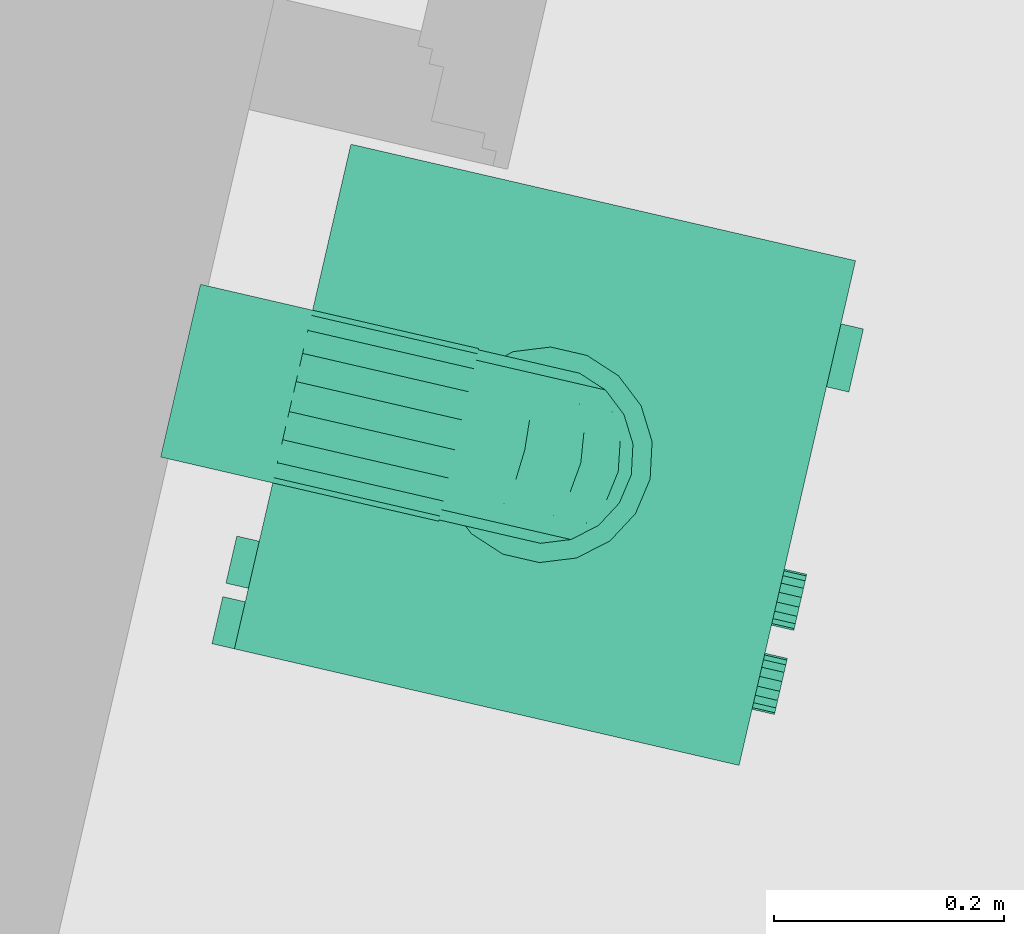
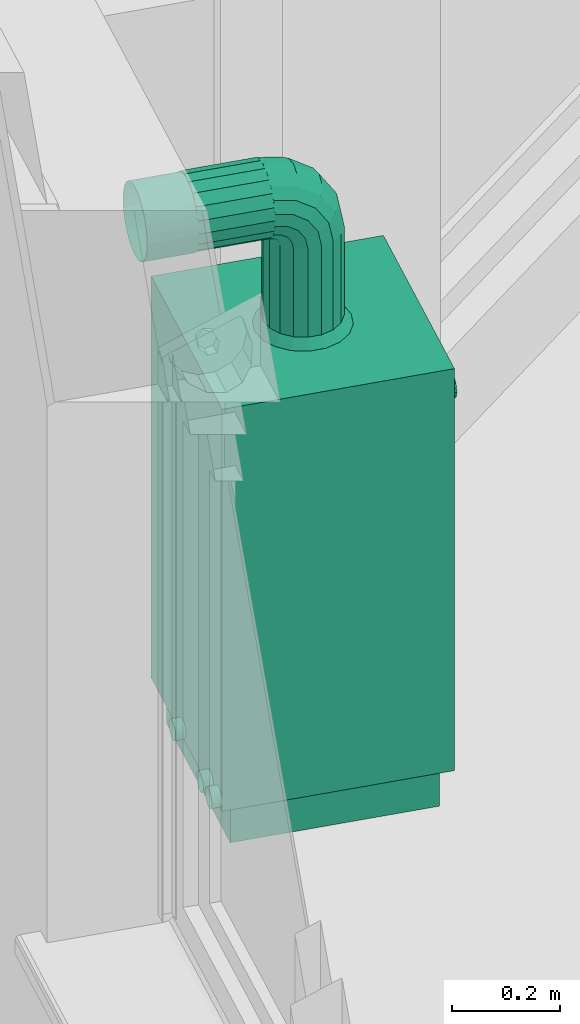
# One storey, part 81 of 91: 1 energy conversion device.
"""IFC2X3 building model written with IfcOpenShell, lengths in metres."""

from ifc_helpers import new_model, entity, si_unit, converted_unit, derived_unit, money_unit, direction, frame, origin_with_axes, place, context, subcontext, project, spatial, open_shell, faceted_brep, surface_model, source, transform, mapped, type_object, element, save


model = new_model("IFC2X3")

# Units and contexts
model_context = context("Model", 3, precision=1e-05, world=origin_with_axes(), true_north=direction((0.0, 1.0)))
body_context = subcontext(model_context, "Body", "Model", "MODEL_VIEW")
ifc_project = project(units=[si_unit("LENGTHUNIT", "METRE"), si_unit("AREAUNIT", "SQUARE_METRE"), si_unit("VOLUMEUNIT", "CUBIC_METRE"), converted_unit("PLANEANGLEUNIT", "DEGREE", entity("IfcPlaneAngleMeasure", 0.0174532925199), si_unit("PLANEANGLEUNIT", "RADIAN"), dimensions=[0, 0, 0, 0, 0, 0, 0]), si_unit("SOLIDANGLEUNIT", "STERADIAN"), money_unit("EUR"), converted_unit("TIMEUNIT", "Year", entity("IfcTimeMeasure", 31556926.0), si_unit("TIMEUNIT", "SECOND"), dimensions=[0, 0, 1, 0, 0, 0, 0]), si_unit("MASSUNIT", "GRAM", prefix="KILO"), si_unit("THERMODYNAMICTEMPERATUREUNIT", "DEGREE_CELSIUS"), si_unit("LUMINOUSINTENSITYUNIT", "LUMEN"), si_unit("ENERGYUNIT", "JOULE", prefix="MEGA"), derived_unit("THERMALCONDUCTANCEUNIT", [(si_unit("POWERUNIT", "WATT"), 1), (si_unit("LENGTHUNIT", "METRE"), -1), (si_unit("THERMODYNAMICTEMPERATUREUNIT", "KELVIN"), -1)]), derived_unit("SPECIFICHEATCAPACITYUNIT", [(si_unit("ENERGYUNIT", "JOULE"), 1), (si_unit("MASSUNIT", "GRAM", prefix="KILO"), -1), (si_unit("THERMODYNAMICTEMPERATUREUNIT", "KELVIN"), -1)]), derived_unit("MASSDENSITYUNIT", [(si_unit("MASSUNIT", "GRAM", prefix="KILO"), 1), (si_unit("VOLUMEUNIT", "CUBIC_METRE"), -1)])], contexts=[model_context])

# Site, building, storey
site_placement = place(None, origin_with_axes())
site = spatial("IfcSite", under=ifc_project, at=site_placement, Name="Site", CompositionType="ELEMENT")
building_placement = place(site_placement, origin_with_axes())
building = spatial("IfcBuilding", under=site, at=building_placement, Name="Bâtiment", CompositionType="ELEMENT")
storey_placement = place(building_placement, frame((0.0, 0.0, 5.44), z_axis=(0.0, 0.0, 1.0), x_axis=(1.0, 0.0, 0.0)))
storey = spatial("IfcBuildingStorey", under=building, at=storey_placement, Name="R+2", CompositionType="ELEMENT", Elevation=5.44)

# Energy conversion device
boiler_type = type_object("IfcBoilerType", Name="Chaudière à gaz 23", PredefinedType="WATER")
shared_shape = source(origin_with_axes(), body_context, "Body", "SurfaceModel", [
    surface_model("IfcShellBasedSurfaceModel", [(-0.2, 0.45, 0.090909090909), (-0.2, 0.47, 0.090909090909), (-0.194564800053, 0.47, 0.0916246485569), (-0.194564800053, 0.45, 0.0916246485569), (-0.205435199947, 0.45, 0.0916246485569), (-0.205435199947, 0.47, 0.0916246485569), (-0.1895, 0.47, 0.0937225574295), (-0.1895, 0.45, 0.0937225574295), (-0.2105, 0.45, 0.0937225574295), (-0.2105, 0.47, 0.0937225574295), (-0.185150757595, 0.47, 0.0970598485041), (-0.185150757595, 0.45, 0.0970598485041), (-0.214849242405, 0.45, 0.0970598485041), (-0.214849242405, 0.47, 0.0970598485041), (-0.181813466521, 0.47, 0.101409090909), (-0.181813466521, 0.45, 0.101409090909), (-0.218186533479, 0.45, 0.101409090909), (-0.218186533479, 0.47, 0.101409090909), (-0.179715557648, 0.47, 0.106473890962), (-0.179715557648, 0.45, 0.106473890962), (-0.220284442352, 0.45, 0.106473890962), (-0.220284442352, 0.47, 0.106473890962), (-0.179, 0.47, 0.111909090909), (-0.179, 0.45, 0.111909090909), (-0.221, 0.45, 0.111909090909), (-0.221, 0.47, 0.111909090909), (-0.179715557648, 0.47, 0.117344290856), (-0.179715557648, 0.45, 0.117344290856), (-0.220284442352, 0.45, 0.117344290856), (-0.220284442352, 0.47, 0.117344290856), (-0.181813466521, 0.47, 0.122409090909), (-0.181813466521, 0.45, 0.122409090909), (-0.218186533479, 0.45, 0.122409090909), (-0.218186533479, 0.47, 0.122409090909), (-0.185150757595, 0.47, 0.126758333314), (-0.185150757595, 0.45, 0.126758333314), (-0.214849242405, 0.45, 0.126758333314), (-0.214849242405, 0.47, 0.126758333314), (-0.1895, 0.47, 0.130095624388), (-0.1895, 0.45, 0.130095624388), (-0.2105, 0.45, 0.130095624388), (-0.2105, 0.47, 0.130095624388), (-0.194564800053, 0.47, 0.132193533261), (-0.194564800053, 0.45, 0.132193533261), (-0.205435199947, 0.45, 0.132193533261), (-0.205435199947, 0.47, 0.132193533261), (-0.2, 0.47, 0.132909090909), (-0.2, 0.45, 0.132909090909)], [open_shell([[[0, 1, 2, 3]], [[4, 5, 1, 0]], [[3, 2, 6, 7]], [[8, 9, 5, 4]], [[7, 6, 10, 11]], [[12, 13, 9, 8]], [[11, 10, 14, 15]], [[16, 17, 13, 12]], [[15, 14, 18, 19]], [[20, 21, 17, 16]], [[19, 18, 22, 23]], [[24, 25, 21, 20]], [[23, 22, 26, 27]], [[28, 29, 25, 24]], [[27, 26, 30, 31]], [[32, 33, 29, 28]], [[31, 30, 34, 35]], [[36, 37, 33, 32]], [[35, 34, 38, 39]], [[40, 41, 37, 36]], [[39, 38, 42, 43]], [[44, 45, 41, 40]], [[43, 42, 46, 47]], [[47, 46, 45, 44]]])]),
    surface_model("IfcShellBasedSurfaceModel", [(-0.375, 0.45, 0.090909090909), (-0.375, 0.47, 0.090909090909), (-0.369564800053, 0.47, 0.0916246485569), (-0.369564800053, 0.45, 0.0916246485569), (-0.380435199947, 0.45, 0.0916246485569), (-0.380435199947, 0.47, 0.0916246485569), (-0.3645, 0.47, 0.0937225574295), (-0.3645, 0.45, 0.0937225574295), (-0.3855, 0.45, 0.0937225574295), (-0.3855, 0.47, 0.0937225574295), (-0.360150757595, 0.47, 0.0970598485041), (-0.360150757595, 0.45, 0.0970598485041), (-0.389849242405, 0.45, 0.0970598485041), (-0.389849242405, 0.47, 0.0970598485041), (-0.356813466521, 0.47, 0.101409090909), (-0.356813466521, 0.45, 0.101409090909), (-0.393186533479, 0.45, 0.101409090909), (-0.393186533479, 0.47, 0.101409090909), (-0.354715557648, 0.47, 0.106473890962), (-0.354715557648, 0.45, 0.106473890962), (-0.395284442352, 0.45, 0.106473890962), (-0.395284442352, 0.47, 0.106473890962), (-0.354, 0.47, 0.111909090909), (-0.354, 0.45, 0.111909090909), (-0.396, 0.45, 0.111909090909), (-0.396, 0.47, 0.111909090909), (-0.354715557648, 0.47, 0.117344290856), (-0.354715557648, 0.45, 0.117344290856), (-0.395284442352, 0.45, 0.117344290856), (-0.395284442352, 0.47, 0.117344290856), (-0.356813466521, 0.47, 0.122409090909), (-0.356813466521, 0.45, 0.122409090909), (-0.393186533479, 0.45, 0.122409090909), (-0.393186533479, 0.47, 0.122409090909), (-0.360150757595, 0.47, 0.126758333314), (-0.360150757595, 0.45, 0.126758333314), (-0.389849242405, 0.45, 0.126758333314), (-0.389849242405, 0.47, 0.126758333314), (-0.3645, 0.47, 0.130095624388), (-0.3645, 0.45, 0.130095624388), (-0.3855, 0.45, 0.130095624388), (-0.3855, 0.47, 0.130095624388), (-0.369564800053, 0.47, 0.132193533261), (-0.369564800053, 0.45, 0.132193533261), (-0.380435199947, 0.45, 0.132193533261), (-0.380435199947, 0.47, 0.132193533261), (-0.375, 0.47, 0.132909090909), (-0.375, 0.45, 0.132909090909)], [open_shell([[[0, 1, 2, 3]], [[4, 5, 1, 0]], [[3, 2, 6, 7]], [[8, 9, 5, 4]], [[7, 6, 10, 11]], [[12, 13, 9, 8]], [[11, 10, 14, 15]], [[16, 17, 13, 12]], [[15, 14, 18, 19]], [[20, 21, 17, 16]], [[19, 18, 22, 23]], [[24, 25, 21, 20]], [[23, 22, 26, 27]], [[28, 29, 25, 24]], [[27, 26, 30, 31]], [[32, 33, 29, 28]], [[31, 30, 34, 35]], [[36, 37, 33, 32]], [[35, 34, 38, 39]], [[40, 41, 37, 36]], [[39, 38, 42, 43]], [[44, 45, 41, 40]], [[43, 42, 46, 47]], [[47, 46, 45, 44]]])]),
    surface_model("IfcShellBasedSurfaceModel", [(-0.429, 0.45, 0.090909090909), (-0.429, 0.47, 0.090909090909), (-0.423564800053, 0.47, 0.0916246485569), (-0.423564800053, 0.45, 0.0916246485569), (-0.434435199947, 0.45, 0.0916246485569), (-0.434435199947, 0.47, 0.0916246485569), (-0.4185, 0.47, 0.0937225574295), (-0.4185, 0.45, 0.0937225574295), (-0.4395, 0.45, 0.0937225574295), (-0.4395, 0.47, 0.0937225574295), (-0.414150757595, 0.47, 0.0970598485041), (-0.414150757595, 0.45, 0.0970598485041), (-0.443849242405, 0.45, 0.0970598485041), (-0.443849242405, 0.47, 0.0970598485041), (-0.410813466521, 0.47, 0.101409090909), (-0.410813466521, 0.45, 0.101409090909), (-0.447186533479, 0.45, 0.101409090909), (-0.447186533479, 0.47, 0.101409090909), (-0.408715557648, 0.47, 0.106473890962), (-0.408715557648, 0.45, 0.106473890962), (-0.449284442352, 0.45, 0.106473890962), (-0.449284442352, 0.47, 0.106473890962), (-0.408, 0.47, 0.111909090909), (-0.408, 0.45, 0.111909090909), (-0.45, 0.45, 0.111909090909), (-0.45, 0.47, 0.111909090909), (-0.408715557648, 0.47, 0.117344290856), (-0.408715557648, 0.45, 0.117344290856), (-0.449284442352, 0.45, 0.117344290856), (-0.449284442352, 0.47, 0.117344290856), (-0.410813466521, 0.47, 0.122409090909), (-0.410813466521, 0.45, 0.122409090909), (-0.447186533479, 0.45, 0.122409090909), (-0.447186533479, 0.47, 0.122409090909), (-0.414150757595, 0.47, 0.126758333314), (-0.414150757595, 0.45, 0.126758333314), (-0.443849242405, 0.45, 0.126758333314), (-0.443849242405, 0.47, 0.126758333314), (-0.4185, 0.47, 0.130095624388), (-0.4185, 0.45, 0.130095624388), (-0.4395, 0.45, 0.130095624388), (-0.4395, 0.47, 0.130095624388), (-0.423564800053, 0.47, 0.132193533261), (-0.423564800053, 0.45, 0.132193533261), (-0.434435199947, 0.45, 0.132193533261), (-0.434435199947, 0.47, 0.132193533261), (-0.429, 0.47, 0.132909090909), (-0.429, 0.45, 0.132909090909)], [open_shell([[[0, 1, 2, 3]], [[4, 5, 1, 0]], [[3, 2, 6, 7]], [[8, 9, 5, 4]], [[7, 6, 10, 11]], [[12, 13, 9, 8]], [[11, 10, 14, 15]], [[16, 17, 13, 12]], [[15, 14, 18, 19]], [[20, 21, 17, 16]], [[19, 18, 22, 23]], [[24, 25, 21, 20]], [[23, 22, 26, 27]], [[28, 29, 25, 24]], [[27, 26, 30, 31]], [[32, 33, 29, 28]], [[31, 30, 34, 35]], [[36, 37, 33, 32]], [[35, 34, 38, 39]], [[40, 41, 37, 36]], [[39, 38, 42, 43]], [[44, 45, 41, 40]], [[43, 42, 46, 47]], [[47, 46, 45, 44]]])]),
    surface_model("IfcShellBasedSurfaceModel", [(-0.225, 0.45, 1.218), (-0.225, 0.55, 1.218), (-0.205070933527, 0.55, 1.22062371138), (-0.205070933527, 0.45, 1.22062371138), (-0.244929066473, 0.45, 1.22062371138), (-0.244929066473, 0.55, 1.22062371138), (-0.1865, 0.55, 1.22831604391), (-0.1865, 0.45, 1.22831604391), (-0.2635, 0.45, 1.22831604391), (-0.2635, 0.55, 1.22831604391), (-0.170552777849, 0.55, 1.24055277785), (-0.170552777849, 0.45, 1.24055277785), (-0.279447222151, 0.45, 1.24055277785), (-0.279447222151, 0.55, 1.24055277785), (-0.158316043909, 0.55, 1.2565), (-0.158316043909, 0.45, 1.2565), (-0.291683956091, 0.45, 1.2565), (-0.291683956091, 0.55, 1.2565), (-0.150623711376, 0.55, 1.27507093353), (-0.150623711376, 0.45, 1.27507093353), (-0.299376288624, 0.45, 1.27507093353), (-0.299376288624, 0.55, 1.27507093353), (-0.148, 0.55, 1.295), (-0.148, 0.45, 1.295), (-0.302, 0.45, 1.295), (-0.302, 0.55, 1.295), (-0.150623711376, 0.55, 1.31492906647), (-0.150623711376, 0.45, 1.31492906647), (-0.299376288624, 0.45, 1.31492906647), (-0.299376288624, 0.55, 1.31492906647), (-0.158316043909, 0.55, 1.3335), (-0.158316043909, 0.45, 1.3335), (-0.291683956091, 0.45, 1.3335), (-0.291683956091, 0.55, 1.3335), (-0.170552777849, 0.55, 1.34944722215), (-0.170552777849, 0.45, 1.34944722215), (-0.279447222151, 0.45, 1.34944722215), (-0.279447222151, 0.55, 1.34944722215), (-0.1865, 0.55, 1.36168395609), (-0.1865, 0.45, 1.36168395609), (-0.2635, 0.45, 1.36168395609), (-0.2635, 0.55, 1.36168395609), (-0.205070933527, 0.55, 1.36937628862), (-0.205070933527, 0.45, 1.36937628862), (-0.244929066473, 0.45, 1.36937628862), (-0.244929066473, 0.55, 1.36937628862), (-0.225, 0.55, 1.372), (-0.225, 0.45, 1.372)], [open_shell([[[0, 1, 2, 3]], [[4, 5, 1, 0]], [[3, 2, 6, 7]], [[8, 9, 5, 4]], [[7, 6, 10, 11]], [[12, 13, 9, 8]], [[11, 10, 14, 15]], [[16, 17, 13, 12]], [[15, 14, 18, 19]], [[20, 21, 17, 16]], [[19, 18, 22, 23]], [[24, 25, 21, 20]], [[23, 22, 26, 27]], [[28, 29, 25, 24]], [[27, 26, 30, 31]], [[32, 33, 29, 28]], [[31, 30, 34, 35]], [[36, 37, 33, 32]], [[35, 34, 38, 39]], [[40, 41, 37, 36]], [[39, 38, 42, 43]], [[44, 45, 41, 40]], [[43, 42, 46, 47]], [[47, 46, 45, 44]]])]),
    faceted_brep([(-0.4275, 0.0225, 0.0), (-0.4275, 0.4275, 0.0), (-0.0225, 0.4275, 0.0), (-0.0225, 0.0225, 0.0), (-0.4275, 0.0225, 0.0909090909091), (-0.4275, 0.4275, 0.0909090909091), (-0.0225, 0.4275, 0.0909090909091), (-0.0225, 0.0225, 0.0909090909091)], [[[0, 1, 2, 3]], [[0, 4, 5, 1]], [[1, 5, 6, 2]], [[2, 6, 7, 3]], [[3, 7, 4, 0]], [[7, 6, 5, 4]]]),
    faceted_brep([(0.0, 0.45, 0.0909090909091), (-0.45, 0.45, 0.0909090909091), (-0.45, 0.45, 1.0), (0.0, 0.45, 1.0), (0.0, 0.0, 0.0909090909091), (-0.45, 0.0, 0.0909090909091), (-0.45, 0.0, 0.818181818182), (-0.45, 0.0225, 0.818181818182), (-0.45, 0.0225, 1.0), (0.0, 0.0225, 1.0), (0.0, 0.0225, 0.818181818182), (0.0, 0.0, 0.818181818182)], [[[0, 1, 2, 3]], [[4, 5, 1, 0]], [[1, 5, 6, 7, 8, 2]], [[3, 2, 8, 9]], [[0, 3, 9, 10, 11, 4]], [[11, 6, 5, 4]], [[10, 7, 6, 11]], [[9, 8, 7, 10]]]),
    faceted_brep([(-0.45, 0.0, 0.818181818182), (-0.45, 0.0225, 0.818181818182), (0.0, 0.0225, 0.818181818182), (0.0, 0.0, 0.818181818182), (-0.45, 0.0, 1.0), (-0.45, 0.0225, 1.0), (0.0, 0.0225, 1.0), (0.0, 0.0, 1.0)], [[[0, 1, 2, 3]], [[0, 4, 5, 1]], [[1, 5, 6, 2]], [[2, 6, 7, 3]], [[3, 7, 4, 0]], [[7, 6, 5, 4]]]),
    faceted_brep([(-0.32349231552, 0.0, 0.900540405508), (-0.325, 0.0, 0.909090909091), (-0.32349231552, 0.0, 0.917641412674), (-0.319151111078, 0.0, 0.925160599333), (-0.3125, 0.0, 0.930741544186), (-0.304341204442, 0.0, 0.933711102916), (-0.295658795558, 0.0, 0.933711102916), (-0.2875, 0.0, 0.930741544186), (-0.280848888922, 0.0, 0.925160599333), (-0.27650768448, 0.0, 0.917641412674), (-0.275, 0.0, 0.909090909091), (-0.27650768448, 0.0, 0.900540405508), (-0.280848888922, 0.0, 0.893021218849), (-0.2875, 0.0, 0.887440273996), (-0.295658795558, 0.0, 0.884470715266), (-0.304341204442, 0.0, 0.884470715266), (-0.3125, 0.0, 0.887440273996), (-0.319151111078, 0.0, 0.893021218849), (-0.32349231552, -0.02, 0.900540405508), (-0.325, -0.02, 0.909090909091), (-0.32349231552, -0.02, 0.917641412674), (-0.319151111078, -0.02, 0.925160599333), (-0.3125, -0.02, 0.930741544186), (-0.304341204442, -0.02, 0.933711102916), (-0.295658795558, -0.02, 0.933711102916), (-0.2875, -0.02, 0.930741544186), (-0.280848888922, -0.02, 0.925160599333), (-0.27650768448, -0.02, 0.917641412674), (-0.275, -0.02, 0.909090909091), (-0.27650768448, -0.02, 0.900540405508), (-0.280848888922, -0.02, 0.893021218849), (-0.2875, -0.02, 0.887440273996), (-0.295658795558, -0.02, 0.884470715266), (-0.304341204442, -0.02, 0.884470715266), (-0.3125, -0.02, 0.887440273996), (-0.319151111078, -0.02, 0.893021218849)], [[[0, 1, 2, 3, 4, 5, 6, 7, 8, 9, 10, 11, 12, 13, 14, 15, 16, 17]], [[0, 18, 19, 1]], [[1, 19, 20, 2]], [[2, 20, 21, 3]], [[3, 21, 22, 4]], [[4, 22, 23, 5]], [[5, 23, 24, 6]], [[6, 24, 25, 7]], [[7, 25, 26, 8]], [[8, 26, 27, 9]], [[9, 27, 28, 10]], [[10, 28, 29, 11]], [[11, 29, 30, 12]], [[12, 30, 31, 13]], [[13, 31, 32, 14]], [[14, 32, 33, 15]], [[15, 33, 34, 16]], [[16, 34, 35, 17]], [[17, 35, 18, 0]], [[18, 35, 34, 33, 32, 31, 30, 29, 28, 27, 26, 25, 24, 23, 22, 21, 20, 19]]]),
    faceted_brep([(-0.39849231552, 0.0, 0.900540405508), (-0.4, 0.0, 0.909090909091), (-0.39849231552, 0.0, 0.917641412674), (-0.394151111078, 0.0, 0.925160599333), (-0.3875, 0.0, 0.930741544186), (-0.379341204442, 0.0, 0.933711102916), (-0.370658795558, 0.0, 0.933711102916), (-0.3625, 0.0, 0.930741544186), (-0.355848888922, 0.0, 0.925160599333), (-0.35150768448, 0.0, 0.917641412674), (-0.35, 0.0, 0.909090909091), (-0.35150768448, 0.0, 0.900540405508), (-0.355848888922, 0.0, 0.893021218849), (-0.3625, 0.0, 0.887440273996), (-0.370658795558, 0.0, 0.884470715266), (-0.379341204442, 0.0, 0.884470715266), (-0.3875, 0.0, 0.887440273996), (-0.394151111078, 0.0, 0.893021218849), (-0.39849231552, -0.02, 0.900540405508), (-0.4, -0.02, 0.909090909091), (-0.39849231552, -0.02, 0.917641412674), (-0.394151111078, -0.02, 0.925160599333), (-0.3875, -0.02, 0.930741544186), (-0.379341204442, -0.02, 0.933711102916), (-0.370658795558, -0.02, 0.933711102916), (-0.3625, -0.02, 0.930741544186), (-0.355848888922, -0.02, 0.925160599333), (-0.35150768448, -0.02, 0.917641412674), (-0.35, -0.02, 0.909090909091), (-0.35150768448, -0.02, 0.900540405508), (-0.355848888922, -0.02, 0.893021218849), (-0.3625, -0.02, 0.887440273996), (-0.370658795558, -0.02, 0.884470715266), (-0.379341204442, -0.02, 0.884470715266), (-0.3875, -0.02, 0.887440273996), (-0.394151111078, -0.02, 0.893021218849)], [[[0, 1, 2, 3, 4, 5, 6, 7, 8, 9, 10, 11, 12, 13, 14, 15, 16, 17]], [[0, 18, 19, 1]], [[1, 19, 20, 2]], [[2, 20, 21, 3]], [[3, 21, 22, 4]], [[4, 22, 23, 5]], [[5, 23, 24, 6]], [[6, 24, 25, 7]], [[7, 25, 26, 8]], [[8, 26, 27, 9]], [[9, 27, 28, 10]], [[10, 28, 29, 11]], [[11, 29, 30, 12]], [[12, 30, 31, 13]], [[13, 31, 32, 14]], [[14, 32, 33, 15]], [[15, 33, 34, 16]], [[16, 34, 35, 17]], [[17, 35, 18, 0]], [[18, 35, 34, 33, 32, 31, 30, 29, 28, 27, 26, 25, 24, 23, 22, 21, 20, 19]]]),
    faceted_brep([(-0.1125, 0.0, 0.878787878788), (-0.1125, 0.0, 0.939393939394), (-0.05625, 0.0, 0.939393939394), (-0.05625, 0.0, 0.878787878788), (-0.1125, -0.02, 0.878787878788), (-0.1125, -0.02, 0.939393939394), (-0.05625, -0.02, 0.939393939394), (-0.05625, -0.02, 0.878787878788)], [[[0, 1, 2, 3]], [[0, 4, 5, 1]], [[1, 5, 6, 2]], [[2, 6, 7, 3]], [[3, 7, 4, 0]], [[7, 6, 5, 4]]]),
    surface_model("IfcShellBasedSurfaceModel", [(-0.198664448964, 0.297356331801, 1.22), (-0.198664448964, 0.297356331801, 1.02), (-0.225, 0.302, 1.02), (-0.225, 0.302, 1.22), (-0.175505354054, 0.28398542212, 1.22), (-0.175505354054, 0.28398542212, 1.02), (-0.192935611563, 0.313096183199, 1.0), (-0.225, 0.31875, 1.0), (-0.251335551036, 0.297356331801, 1.02), (-0.251335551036, 0.297356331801, 1.22), (-0.158316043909, 0.2635, 1.22), (-0.158316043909, 0.2635, 1.02), (-0.164738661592, 0.296816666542, 1.0), (-0.257064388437, 0.313096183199, 1.0), (-0.274494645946, 0.28398542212, 1.02), (-0.274494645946, 0.28398542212, 1.22), (-0.149169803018, 0.23837090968, 1.22), (-0.149169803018, 0.23837090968, 1.02), (-0.143810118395, 0.271875, 1.0), (-0.285261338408, 0.296816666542, 1.0), (-0.291683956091, 0.2635, 1.02), (-0.291683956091, 0.2635, 1.22), (-0.149169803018, 0.21162909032, 1.22), (-0.149169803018, 0.21162909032, 1.02), (-0.132674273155, 0.241279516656, 1.0), (-0.306189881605, 0.271875, 1.0), (-0.300830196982, 0.23837090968, 1.02), (-0.300830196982, 0.23837090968, 1.22), (-0.158316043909, 0.1865, 1.22), (-0.158316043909, 0.1865, 1.02), (-0.132674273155, 0.208720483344, 1.0), (-0.317325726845, 0.241279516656, 1.0), (-0.300830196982, 0.21162909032, 1.02), (-0.300830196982, 0.21162909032, 1.22), (-0.175505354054, 0.16601457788, 1.22), (-0.175505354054, 0.16601457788, 1.02), (-0.143810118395, 0.178125, 1.0), (-0.317325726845, 0.208720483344, 1.0), (-0.291683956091, 0.1865, 1.02), (-0.291683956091, 0.1865, 1.22), (-0.198664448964, 0.152643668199, 1.22), (-0.198664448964, 0.152643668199, 1.02), (-0.164738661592, 0.153183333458, 1.0), (-0.306189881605, 0.178125, 1.0), (-0.274494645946, 0.16601457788, 1.02), (-0.274494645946, 0.16601457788, 1.22), (-0.225, 0.148, 1.22), (-0.225, 0.148, 1.02), (-0.192935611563, 0.136903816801, 1.0), (-0.285261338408, 0.153183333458, 1.0), (-0.251335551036, 0.152643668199, 1.02), (-0.251335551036, 0.152643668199, 1.22), (-0.225, 0.13125, 1.0), (-0.257064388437, 0.136903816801, 1.0)], [open_shell([[[0, 1, 2, 3]], [[4, 5, 1, 0]], [[1, 6, 7, 2]], [[3, 2, 8, 9]], [[10, 11, 5, 4]], [[5, 12, 6, 1]], [[2, 7, 13, 8]], [[9, 8, 14, 15]], [[16, 17, 11, 10]], [[11, 18, 12, 5]], [[8, 13, 19, 14]], [[15, 14, 20, 21]], [[22, 23, 17, 16]], [[17, 24, 18, 11]], [[14, 19, 25, 20]], [[21, 20, 26, 27]], [[28, 29, 23, 22]], [[23, 30, 24, 17]], [[20, 25, 31, 26]], [[27, 26, 32, 33]], [[34, 35, 29, 28]], [[29, 36, 30, 23]], [[26, 31, 37, 32]], [[33, 32, 38, 39]], [[40, 41, 35, 34]], [[35, 42, 36, 29]], [[32, 37, 43, 38]], [[39, 38, 44, 45]], [[46, 47, 41, 40]], [[41, 48, 42, 35]], [[38, 43, 49, 44]], [[45, 44, 50, 51]], [[51, 50, 47, 46]], [[47, 52, 48, 41]], [[44, 49, 53, 50]], [[50, 53, 52, 47]]])]),
    faceted_brep([(-0.300830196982, 0.218508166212, 1.2545834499), (-0.300830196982, 0.21162909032, 1.22), (-0.291683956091, 0.1865, 1.22), (-0.291683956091, 0.195291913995, 1.26419993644), (-0.300830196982, 0.243214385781, 1.24434979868), (-0.300830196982, 0.23837090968, 1.22), (-0.291683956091, 0.2635, 1.22), (-0.274494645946, 0.28398542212, 1.22), (-0.251335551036, 0.297356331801, 1.22), (-0.225, 0.302, 1.22), (-0.198664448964, 0.297356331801, 1.22), (-0.175505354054, 0.28398542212, 1.22), (-0.158316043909, 0.2635, 1.22), (-0.149169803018, 0.23837090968, 1.22), (-0.149169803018, 0.21162909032, 1.22), (-0.158316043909, 0.1865, 1.22), (-0.175505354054, 0.16601457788, 1.22), (-0.198664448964, 0.152643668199, 1.22), (-0.225, 0.148, 1.22), (-0.251335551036, 0.152643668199, 1.22), (-0.274494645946, 0.16601457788, 1.22), (-0.274494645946, 0.176365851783, 1.27203936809), (-0.300830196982, 0.238098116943, 1.28390188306), (-0.291683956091, 0.220329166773, 1.30167083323), (-0.300830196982, 0.257007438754, 1.26499256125), (-0.291683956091, 0.266430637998, 1.23473331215), (-0.274494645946, 0.28535670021, 1.2268938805), (-0.251335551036, 0.297709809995, 1.22177705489), (-0.198664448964, 0.297709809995, 1.22177705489), (-0.175505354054, 0.28535670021, 1.2268938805), (-0.158316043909, 0.266430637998, 1.23473331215), (-0.149169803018, 0.243214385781, 1.24434979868), (-0.149169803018, 0.218508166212, 1.2545834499), (-0.158316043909, 0.195291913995, 1.26419993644), (-0.175505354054, 0.176365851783, 1.27203936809), (-0.198664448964, 0.164012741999, 1.2771561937), (-0.225, 0.159722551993, 1.27893324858), (-0.251335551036, 0.164012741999, 1.2771561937), (-0.274494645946, 0.205843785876, 1.31615621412), (-0.291683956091, 0.257800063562, 1.32670808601), (-0.300830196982, 0.267416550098, 1.30349183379), (-0.300830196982, 0.277650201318, 1.27878561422), (-0.291683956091, 0.274776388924, 1.24722361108), (-0.274494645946, 0.289261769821, 1.23273823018), (-0.251335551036, 0.298716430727, 1.22328356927), (-0.198664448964, 0.298716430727, 1.22328356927), (-0.175505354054, 0.289261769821, 1.23273823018), (-0.158316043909, 0.274776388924, 1.24722361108), (-0.149169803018, 0.257007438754, 1.26499256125), (-0.149169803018, 0.238098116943, 1.28390188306), (-0.158316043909, 0.220329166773, 1.30167083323), (-0.175505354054, 0.205843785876, 1.31615621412), (-0.198664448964, 0.196389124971, 1.32561087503), (-0.225, 0.193105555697, 1.3288944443), (-0.251335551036, 0.196389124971, 1.32561087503), (-0.274494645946, 0.249960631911, 1.34563414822), (-0.291683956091, 0.302, 1.3355), (-0.300830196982, 0.302, 1.31037090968), (-0.300830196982, 0.302, 1.28362909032), (-0.291683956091, 0.287266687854, 1.255569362), (-0.274494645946, 0.295106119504, 1.23664329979), (-0.251335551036, 0.300222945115, 1.22429019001), (-0.198664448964, 0.300222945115, 1.22429019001), (-0.175505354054, 0.295106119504, 1.23664329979), (-0.158316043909, 0.287266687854, 1.255569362), (-0.149169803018, 0.277650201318, 1.27878561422), (-0.149169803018, 0.267416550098, 1.30349183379), (-0.158316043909, 0.257800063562, 1.32670808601), (-0.175505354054, 0.249960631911, 1.34563414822), (-0.198664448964, 0.244843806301, 1.357987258), (-0.225, 0.243066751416, 1.36227744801), (-0.251335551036, 0.244843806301, 1.357987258), (-0.274494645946, 0.302, 1.35598542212), (-0.291683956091, 0.302, 1.2585), (-0.251335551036, 0.302, 1.3693563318), (-0.225, 0.302, 1.374), (-0.198664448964, 0.302, 1.3693563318), (-0.175505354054, 0.302, 1.35598542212), (-0.158316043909, 0.302, 1.3355), (-0.149169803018, 0.302, 1.31037090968), (-0.149169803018, 0.302, 1.28362909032), (-0.158316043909, 0.302, 1.2585), (-0.175505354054, 0.302, 1.23801457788), (-0.198664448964, 0.302, 1.2246436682), (-0.251335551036, 0.302, 1.2246436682), (-0.274494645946, 0.302, 1.23801457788)], [[[0, 1, 2, 3]], [[1, 0, 4, 5]], [[2, 1, 5, 6, 7, 8, 9, 10, 11, 12, 13, 14, 15, 16, 17, 18, 19, 20]], [[3, 2, 20, 21]], [[22, 0, 3, 23]], [[0, 22, 24, 4]], [[6, 5, 4, 25]], [[26, 7, 6, 25]], [[7, 26, 27, 8]], [[8, 27, 9]], [[28, 10, 9]], [[10, 28, 29, 11]], [[30, 12, 11, 29]], [[12, 30, 31, 13]], [[32, 14, 13, 31]], [[15, 14, 32, 33]], [[34, 16, 15, 33]], [[17, 16, 34, 35]], [[36, 18, 17, 35]], [[19, 18, 36, 37]], [[21, 20, 19, 37]], [[23, 3, 21, 38]], [[22, 23, 39, 40]], [[24, 22, 40, 41]], [[4, 24, 42, 25]], [[43, 26, 25, 42]], [[26, 43, 44, 27]], [[27, 44, 9]], [[45, 28, 9]], [[28, 45, 46, 29]], [[29, 46, 47, 30]], [[31, 30, 47, 48]], [[49, 32, 31, 48]], [[32, 49, 50, 33]], [[51, 34, 33, 50]], [[35, 34, 51, 52]], [[53, 36, 35, 52]], [[54, 37, 36, 53]], [[38, 21, 37, 54]], [[39, 23, 38, 55]], [[40, 39, 56, 57]], [[41, 40, 57, 58]], [[59, 42, 24, 41]], [[42, 59, 60, 43]], [[43, 60, 61, 44]], [[44, 61, 9]], [[62, 45, 9]], [[45, 62, 63, 46]], [[46, 63, 64, 47]], [[47, 64, 65, 48]], [[66, 49, 48, 65]], [[50, 49, 66, 67]], [[68, 51, 50, 67]], [[52, 51, 68, 69]], [[53, 52, 69, 70]], [[71, 54, 53, 70]], [[55, 38, 54, 71]], [[56, 39, 55, 72]], [[73, 58, 57, 56, 72, 74, 75, 76, 77, 78, 79, 80, 81, 82, 83, 9, 84, 85]], [[59, 41, 58, 73]], [[59, 73, 85, 60]], [[60, 85, 84, 61]], [[61, 84, 9]], [[62, 9, 83]], [[63, 62, 83, 82]], [[63, 82, 81, 64]], [[65, 64, 81, 80]], [[66, 65, 80, 79]], [[67, 66, 79, 78]], [[77, 68, 67, 78]], [[69, 68, 77, 76]], [[75, 70, 69, 76]], [[71, 70, 75, 74]], [[72, 55, 71, 74]]]),
    surface_model("IfcShellBasedSurfaceModel", [(-0.152643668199, 0.45, 1.32333555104), (-0.152643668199, 0.302, 1.32333555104), (-0.148, 0.302, 1.297), (-0.148, 0.45, 1.297), (-0.16601457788, 0.45, 1.34649464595), (-0.16601457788, 0.302, 1.34649464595), (-0.152643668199, 0.302, 1.27066444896), (-0.152643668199, 0.45, 1.27066444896), (-0.1865, 0.45, 1.36368395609), (-0.1865, 0.302, 1.36368395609), (-0.16601457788, 0.302, 1.24750535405), (-0.16601457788, 0.45, 1.24750535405), (-0.21162909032, 0.45, 1.37283019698), (-0.21162909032, 0.302, 1.37283019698), (-0.1865, 0.302, 1.23031604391), (-0.1865, 0.45, 1.23031604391), (-0.23837090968, 0.45, 1.37283019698), (-0.23837090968, 0.302, 1.37283019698), (-0.21162909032, 0.302, 1.22116980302), (-0.21162909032, 0.45, 1.22116980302), (-0.2635, 0.45, 1.36368395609), (-0.2635, 0.302, 1.36368395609), (-0.23837090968, 0.302, 1.22116980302), (-0.23837090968, 0.45, 1.22116980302), (-0.28398542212, 0.45, 1.34649464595), (-0.28398542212, 0.302, 1.34649464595), (-0.2635, 0.302, 1.23031604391), (-0.2635, 0.45, 1.23031604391), (-0.297356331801, 0.45, 1.32333555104), (-0.297356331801, 0.302, 1.32333555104), (-0.28398542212, 0.302, 1.24750535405), (-0.28398542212, 0.45, 1.24750535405), (-0.302, 0.45, 1.297), (-0.302, 0.302, 1.297), (-0.297356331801, 0.302, 1.27066444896), (-0.297356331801, 0.45, 1.27066444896)], [open_shell([[[0, 1, 2, 3]], [[4, 5, 1, 0]], [[3, 2, 6, 7]], [[8, 9, 5, 4]], [[7, 6, 10, 11]], [[12, 13, 9, 8]], [[11, 10, 14, 15]], [[16, 17, 13, 12]], [[15, 14, 18, 19]], [[20, 21, 17, 16]], [[19, 18, 22, 23]], [[24, 25, 21, 20]], [[23, 22, 26, 27]], [[28, 29, 25, 24]], [[27, 26, 30, 31]], [[32, 33, 29, 28]], [[31, 30, 34, 35]], [[35, 34, 33, 32]]])]),
])
energy_conversion_device_placement = place(storey_placement, frame((-6.17033406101, 16.6386537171, 0.9), z_axis=(0.0, 0.0, 1.0), x_axis=(0.22487619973, 0.974387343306, 0.0)))
element("IfcEnergyConversionDevice", 1, at=energy_conversion_device_placement, inside=storey, type_object=boiler_type, Name="MOB-002", context=body_context, shape_type="MappedRepresentation", body=[
    mapped(shared_shape, transform((0.0, 0.0, 0.0))),
])

save(model, "model.ifc")
